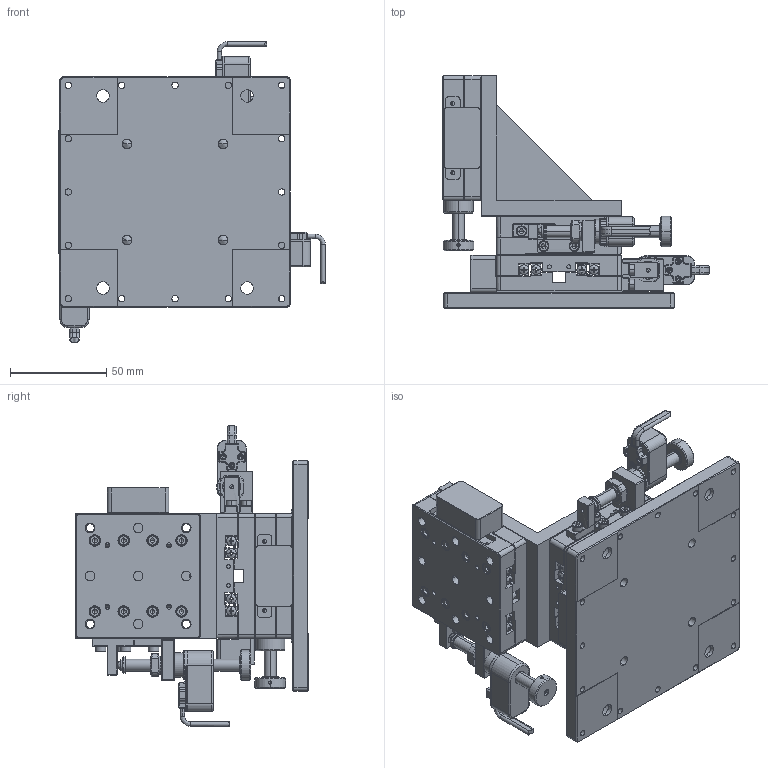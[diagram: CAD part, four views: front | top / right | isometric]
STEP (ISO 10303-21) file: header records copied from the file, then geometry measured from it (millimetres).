
FILE_DESCRIPTION (( 'STEP AP203' ), '1' );
FILE_NAME ('XYZ65N81E26闭环三维压电螺钉平台3D图（23.02.10）.STEP', '2025-09-30T01:51:07', ( 'Windows User' ), ( 'P R C' ), 'SwSTEP 2.0', 'SolidWorks 2016', '' );
FILE_SCHEMA (( 'CONFIG_CONTROL_DESIGN' ));
Length unit declared in the file: millimetre
Products named in the file (1): XYZ65N81E26闭环三维压电螺钉平台3D图（23.02.10）
Bounding box: 138.65 x 121 x 156.3 mm (x, y, z)
Surface area: 144217.5 mm2 (no closed solid volume)
Topology: 0 solids, 168 shells, 1801 faces, 5846 edges, 4097 vertices
Faces by surface type: plane 862, cylinder 564, cone 253, bspline 122
Entity records: 84420 total; most frequent: CARTESIAN_POINT 35415, DIRECTION 9597, ORIENTED_EDGE 9346, EDGE_CURVE 5768, VERTEX_POINT 4097, AXIS2_PLACEMENT_3D 3273, LINE 3051, VECTOR 3051
